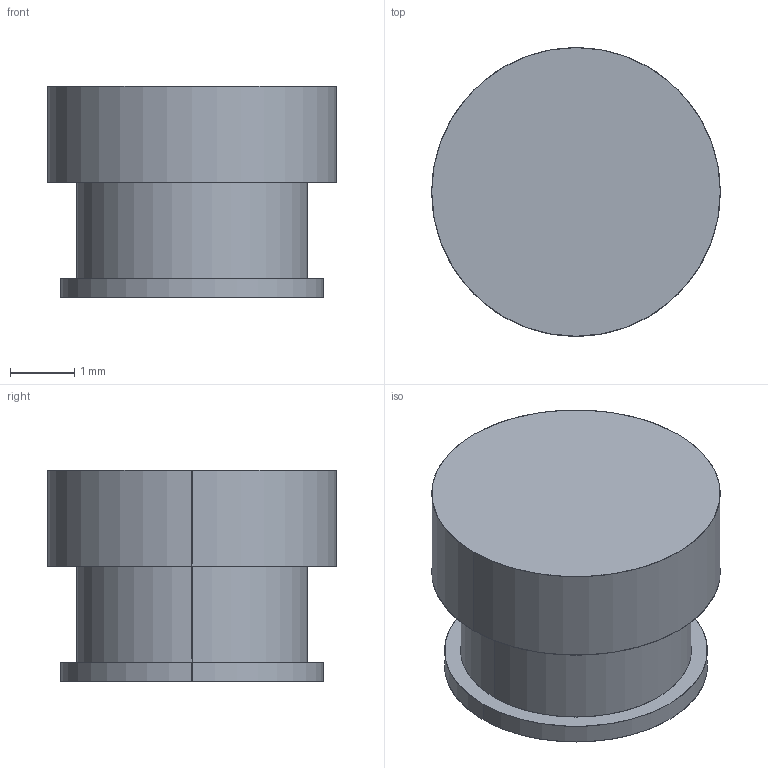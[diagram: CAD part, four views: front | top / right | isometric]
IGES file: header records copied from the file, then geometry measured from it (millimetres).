
Start section: SolidWorks IGES FILE using analytic representation for surfaces
Global section: file name: C:\Documents and Settings\lecoutey\Bureau\GP 2013\1086.070.10.IGS; native system: SolidWorks 2004 by SolidWorks Corporation; preprocessor: Version 5.3; author: lecoutey; date: 050329.161934; units: millimetre
Bounding box: 4.5 x 4.5 x 3.3 mm (x, y, z)
Surface area: 79.9 mm2 (no closed solid volume)
Topology: 0 solids, 0 shells, 10 faces, 216 edges, 216 vertices
Faces by surface type: revolution 6, bspline 4
